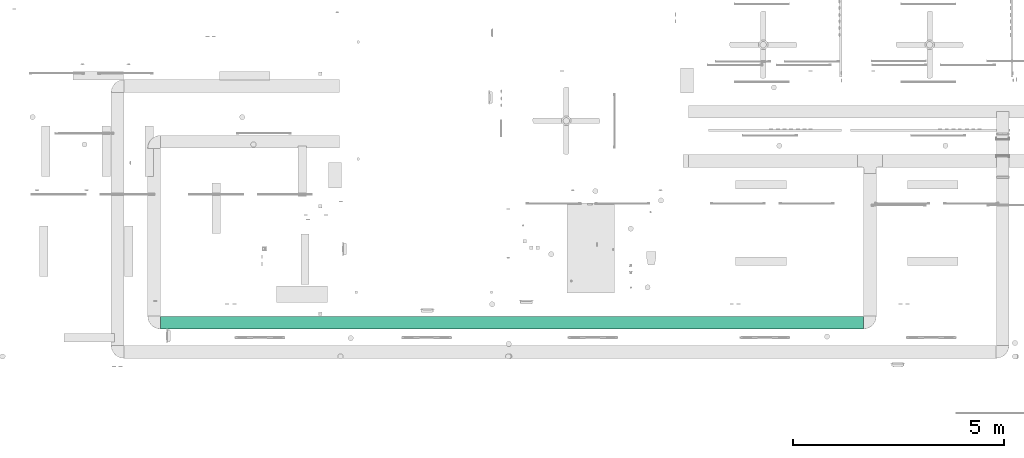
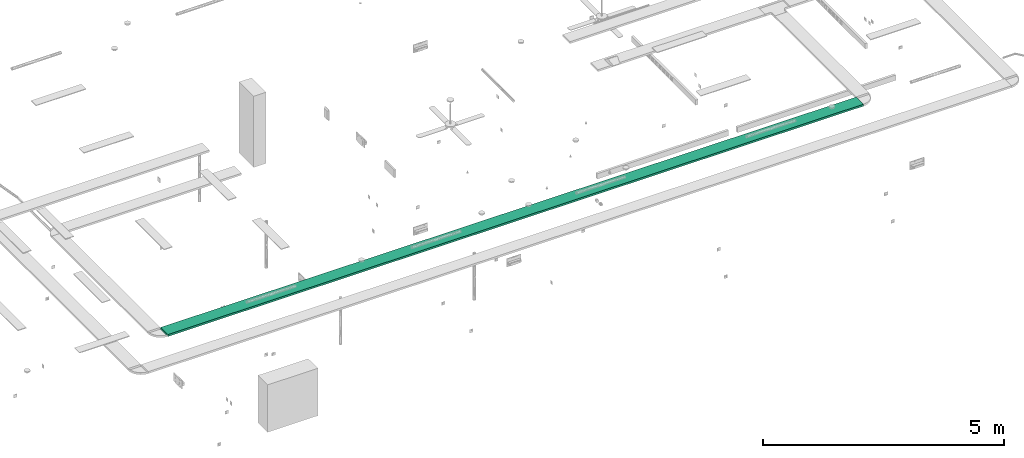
# One storey, part 11 of 153: 1 flow segment.
"""IFC2X3 building model written with IfcOpenShell, lengths in metres."""

from ifc_helpers import new_model, entity, si_unit, converted_unit, derived_unit, direction, frame, frame_2d, origin, place, context, subcontext, project, spatial, rectangle, extrude, type_object, element, save


model = new_model("IFC2X3")

# Units and contexts
model_context = context("Model", 3, precision=1e-05, world=origin(), true_north=direction((6.12303176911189e-17, 1.0)))
body_context = subcontext(model_context, "Body", "Model", "MODEL_VIEW")
ifc_project = project(units=[si_unit("LENGTHUNIT", "METRE"), si_unit("AREAUNIT", "SQUARE_METRE"), si_unit("VOLUMEUNIT", "CUBIC_METRE"), converted_unit("PLANEANGLEUNIT", "DEGREE", entity("IfcRatioMeasure", 0.0174532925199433), si_unit("PLANEANGLEUNIT", "RADIAN"), dimensions=[0, 0, 0, 0, 0, 0, 0]), si_unit("MASSUNIT", "GRAM", prefix="KILO"), derived_unit("MASSDENSITYUNIT", [(si_unit("MASSUNIT", "GRAM", prefix="KILO"), 1), (si_unit("LENGTHUNIT", "METRE"), -3)]), si_unit("TIMEUNIT", "SECOND"), si_unit("FREQUENCYUNIT", "HERTZ"), si_unit("THERMODYNAMICTEMPERATUREUNIT", "DEGREE_CELSIUS"), derived_unit("THERMALTRANSMITTANCEUNIT", [(si_unit("MASSUNIT", "GRAM", prefix="KILO"), 1), (si_unit("THERMODYNAMICTEMPERATUREUNIT", "KELVIN"), -1), (si_unit("TIMEUNIT", "SECOND"), -3)]), derived_unit("VOLUMETRICFLOWRATEUNIT", [(si_unit("LENGTHUNIT", "METRE"), 3), (si_unit("TIMEUNIT", "SECOND"), -1)]), si_unit("ELECTRICCURRENTUNIT", "AMPERE"), si_unit("ELECTRICVOLTAGEUNIT", "VOLT"), si_unit("POWERUNIT", "WATT"), si_unit("FORCEUNIT", "NEWTON"), si_unit("ILLUMINANCEUNIT", "LUX"), si_unit("LUMINOUSFLUXUNIT", "LUMEN"), si_unit("LUMINOUSINTENSITYUNIT", "CANDELA"), derived_unit("USERDEFINED", [(si_unit("MASSUNIT", "GRAM", prefix="KILO"), -1), (si_unit("LENGTHUNIT", "METRE"), -2), (si_unit("TIMEUNIT", "SECOND"), 3), (si_unit("LUMINOUSFLUXUNIT", "LUMEN"), 1)]), derived_unit("LINEARVELOCITYUNIT", [(si_unit("LENGTHUNIT", "METRE"), 1), (si_unit("TIMEUNIT", "SECOND"), -1)]), si_unit("PRESSUREUNIT", "PASCAL"), derived_unit("USERDEFINED", [(si_unit("LENGTHUNIT", "METRE"), -2), (si_unit("MASSUNIT", "GRAM", prefix="KILO"), 1), (si_unit("TIMEUNIT", "SECOND"), -2)])], contexts=[model_context])

# Site, building, storey
site_placement = place(None, origin())
site = spatial("IfcSite", under=ifc_project, at=site_placement, Name="Default", CompositionType="ELEMENT")
building_placement = place(site_placement, origin())
building = spatial("IfcBuilding", under=site, at=building_placement, CompositionType="ELEMENT")
storey_placement = place(building_placement, frame((0.0, 0.0, -4.62)))
storey = spatial("IfcBuildingStorey", under=building, at=storey_placement, Name="S02", CompositionType="ELEMENT", Elevation=-4.62)

# Flow segment
cable_carrier_segment_type = type_object("IfcCableCarrierSegmentType", Name="Cable Tray with Fittings:Chemins de câbles en treillis_Chemins de câbles en treillis", PredefinedType="NOTDEFINED")
flow_segment_placement = place(storey_placement, origin())
element("IfcFlowSegment", 1, at=flow_segment_placement, inside=storey, type_object=cable_carrier_segment_type, Name="Cable Tray with Fittings:Chemins de câbles en treillis_Chemins de câbles en treillis", ObjectType="Cable Tray with Fittings:Chemins de câbles en treillis_Chemins de câbles en treillis", context=body_context, shape_type="SweptSolid", body=[
    extrude(rectangle(XDim=16.6468400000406, YDim=0.300000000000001, at=frame_2d((1.77635683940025e-15, 0.0), x_axis=(1.0, 0.0))), frame((45.5788394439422, -193.697139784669, 3.764)), (0.0, 0.0, 1.0), 0.05),
])

save(model, "model.ifc")
